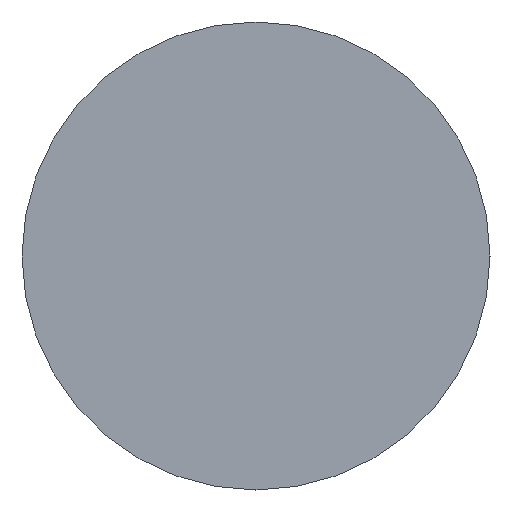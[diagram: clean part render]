
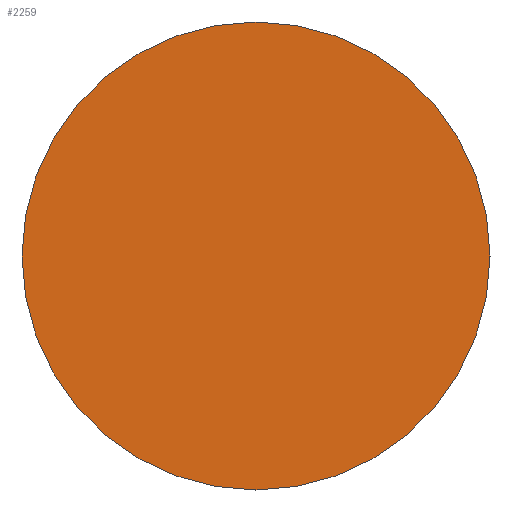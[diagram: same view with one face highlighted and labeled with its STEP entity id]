
A CAD part, front view. The second image highlights one B-rep face of the part: STEP entity #2259.
In plain terms, the highlighted planar face has unit normal (0, -1, 0).
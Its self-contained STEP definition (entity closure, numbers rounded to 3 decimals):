
#299 = DIRECTION ( 'NONE',  ( 0., -1., 0. ) ) ;
#482 = AXIS2_PLACEMENT_3D ( 'NONE', #3652, #3983, #2072 ) ;
#847 = DIRECTION ( 'NONE',  ( 1., 0., 0. ) ) ;
#1013 = ORIENTED_EDGE ( 'NONE', *, *, #2524, .T. ) ;
#1344 = AXIS2_PLACEMENT_3D ( 'NONE', #1420, #1398, #847 ) ;
#1398 = DIRECTION ( 'NONE',  ( 0., -1., 0. ) ) ;
#1420 = CARTESIAN_POINT ( 'NONE',  ( 34., -25., 0. ) ) ;
#1633 = VERTEX_POINT ( 'NONE', #2878 ) ;
#1765 = VERTEX_POINT ( 'NONE', #3329 ) ;
#2072 = DIRECTION ( 'NONE',  ( 1., 0., 0. ) ) ;
#2211 = CARTESIAN_POINT ( 'NONE',  ( 0., -25., 0. ) ) ;
#2259 = ADVANCED_FACE ( 'NONE', ( #3662 ), #3594, .T. ) ;
#2524 = EDGE_CURVE ( 'NONE', #1765, #1633, #3506, .T. ) ;
#2878 = CARTESIAN_POINT ( 'NONE',  ( 34., -25., 0. ) ) ;
#3143 = EDGE_CURVE ( 'NONE', #1633, #1765, #3838, .T. ) ;
#3189 = AXIS2_PLACEMENT_3D ( 'NONE', #2211, #299, #3463 ) ;
#3329 = CARTESIAN_POINT ( 'NONE',  ( -34., -25., 0. ) ) ;
#3463 = DIRECTION ( 'NONE',  ( 1., 0., 0. ) ) ;
#3506 = CIRCLE ( 'NONE', #482, 34. ) ;
#3518 = EDGE_LOOP ( 'NONE', ( #3587, #1013 ) ) ;
#3587 = ORIENTED_EDGE ( 'NONE', *, *, #3143, .T. ) ;
#3594 = PLANE ( 'NONE',  #1344 ) ;
#3652 = CARTESIAN_POINT ( 'NONE',  ( 0., -25., 0. ) ) ;
#3662 = FACE_OUTER_BOUND ( 'NONE', #3518, .T. ) ;
#3838 = CIRCLE ( 'NONE', #3189, 34. ) ;
#3983 = DIRECTION ( 'NONE',  ( 0., -1., 0. ) ) ;
